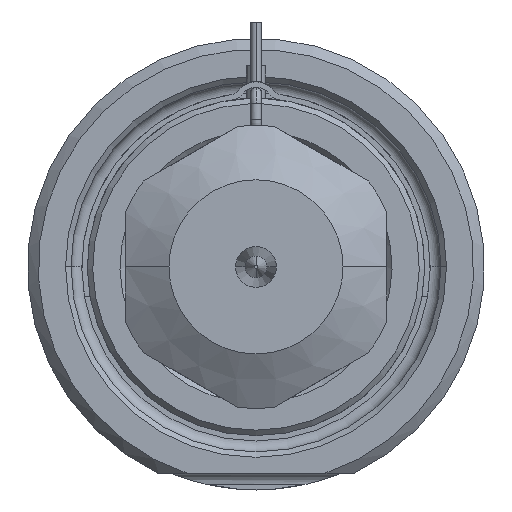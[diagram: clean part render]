
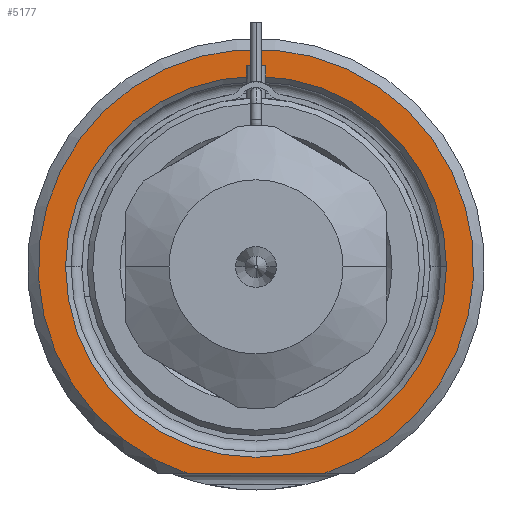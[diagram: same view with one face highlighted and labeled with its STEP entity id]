
A CAD part, front view. The second image highlights one B-rep face of the part: STEP entity #5177.
In plain terms, the highlighted planar face has unit normal (0, -1, 0).
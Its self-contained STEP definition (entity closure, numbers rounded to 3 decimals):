
#1330=CARTESIAN_POINT('',(0.,0.,0.));
#1331=DIRECTION('',(0.,-1.,0.));
#1332=DIRECTION('',(0.312,0.,-0.95));
#1333=AXIS2_PLACEMENT_3D('',#1330,#1331,#1332);
#1354=DIRECTION('',(1.,0.,0.));
#1355=VECTOR('',#1354,12.49);
#1356=CARTESIAN_POINT('',(-6.245,0.,-19.));
#1357=LINE('',#1356,#1355);
#1358=CARTESIAN_POINT('',(0.,0.,0.));
#1359=DIRECTION('',(0.,1.,0.));
#1360=DIRECTION('',(-1.,0.,0.));
#1361=AXIS2_PLACEMENT_3D('',#1358,#1359,#1360);
#1363=CARTESIAN_POINT('',(0.,0.,0.));
#1364=DIRECTION('',(0.,1.,0.));
#1365=DIRECTION('',(1.,0.,0.));
#1366=AXIS2_PLACEMENT_3D('',#1363,#1364,#1365);
#3389=CARTESIAN_POINT('',(-17.5,0.,0.));
#3390=CARTESIAN_POINT('',(17.5,0.,0.));
#3391=VERTEX_POINT('',#3389);
#3392=VERTEX_POINT('',#3390);
#3447=CARTESIAN_POINT('',(-6.245,0.,-19.));
#3448=CARTESIAN_POINT('',(6.245,0.,-19.));
#3449=VERTEX_POINT('',#3447);
#3450=VERTEX_POINT('',#3448);
#5162=CARTESIAN_POINT('',(0.,0.,0.));
#5163=DIRECTION('',(0.,-1.,0.));
#5164=DIRECTION('',(1.,0.,0.));
#5165=AXIS2_PLACEMENT_3D('',#5162,#5163,#5164);
#5166=PLANE('',#5165);
#5167=ORIENTED_EDGE('',*,*,#5094,.F.);
#5168=ORIENTED_EDGE('',*,*,#5154,.F.);
#5169=EDGE_LOOP('',(#5167,#5168));
#5170=FACE_OUTER_BOUND('',#5169,.F.);
#5172=ORIENTED_EDGE('',*,*,#5171,.F.);
#5174=ORIENTED_EDGE('',*,*,#5173,.F.);
#5175=EDGE_LOOP('',(#5172,#5174));
#5176=FACE_BOUND('',#5175,.F.);
#5177=ADVANCED_FACE('',(#5170,#5176),#5166,.T.);
#1334=CIRCLE('',#1333,20.);
#1362=CIRCLE('',#1361,17.5);
#1367=CIRCLE('',#1366,17.5);
#5094=EDGE_CURVE('',#3449,#3450,#1357,.T.);
#5154=EDGE_CURVE('',#3450,#3449,#1334,.T.);
#5171=EDGE_CURVE('',#3391,#3392,#1362,.T.);
#5173=EDGE_CURVE('',#3392,#3391,#1367,.T.);
